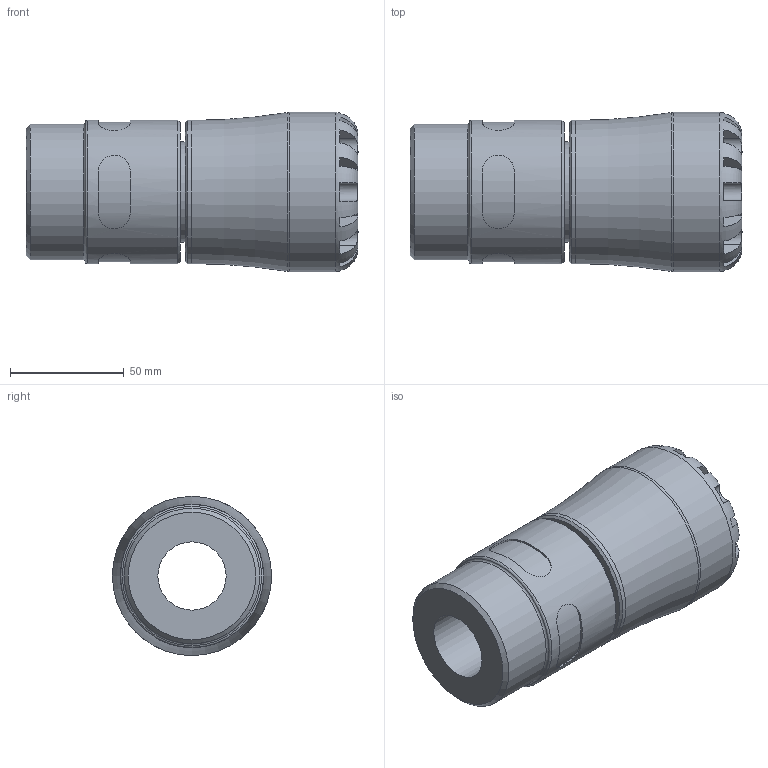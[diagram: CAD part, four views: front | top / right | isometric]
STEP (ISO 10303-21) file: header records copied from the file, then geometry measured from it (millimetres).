
FILE_DESCRIPTION(/* description */ ('PLASSON MALE ADAPTOR 40X2" SERIES 1'),/* implementation_level */ '2;1');
FILE_NAME(/* name */ 'C:\Dropbox\KIMPROJECTS-Inventor 2019\99-16-3568-Processing\S1\10N20\stp\10N200040020_10N2G0040020.stp',/* time_stamp */ '2024-03-12T13:19:52+01:00',/* author */ ('KIM'),/* organization */ (''),/* preprocessor_version */ 'ST-DEVELOPER v17.2',/* originating_system */ 'Autodesk Inventor 2019',/* authorisation */ '');
FILE_SCHEMA (('AUTOMOTIVE_DESIGN { 1 0 10303 214 3 1 1 }'));
Length unit declared in the file: millimetre
Products named in the file (1): 10N200040020_10N2G0040020
Bounding box: 146 x 70 x 70 mm (x, y, z)
Volume: 321429.9 mm3; surface area: 54839.8 mm2
Topology: 1 solids, 1 shells, 105 faces, 275 edges, 178 vertices
Faces by surface type: plane 61, cylinder 35, torus 5, cone 4
Full cylindrical faces by diameter (mm): 30 x1, 40 x1, 44 x1, 59.614 x1, 63 x2, 70 x1
Entity records: 4172 total; most frequent: CARTESIAN_POINT 1479, ORIENTED_EDGE 550, DIRECTION 542, EDGE_CURVE 275, AXIS2_PLACEMENT_3D 225, VERTEX_POINT 178, CIRCLE 119, EDGE_LOOP 113
